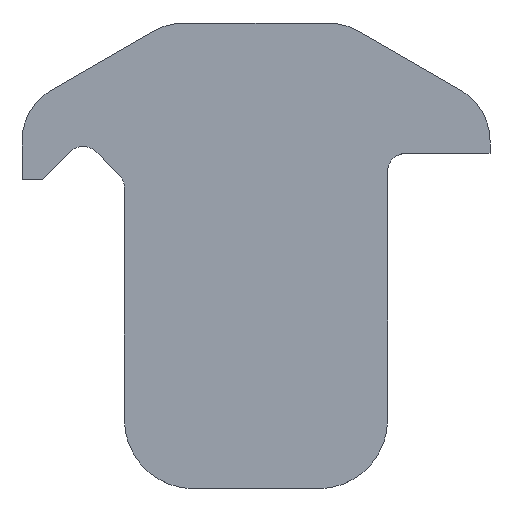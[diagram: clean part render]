
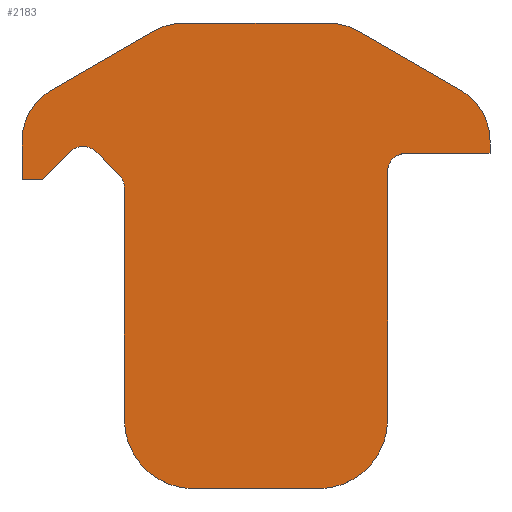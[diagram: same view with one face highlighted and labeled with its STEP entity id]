
A CAD part, top view. The second image highlights one B-rep face of the part: STEP entity #2183.
In plain terms, the highlighted planar face has unit normal (0, 0, 1).
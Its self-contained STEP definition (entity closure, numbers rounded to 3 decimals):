
#6=DIRECTION('',(-1.,0.,0.));
#7=VECTOR('',#6,1.761);
#8=CARTESIAN_POINT('',(-18.559,15.697,1.));
#9=LINE('',#8,#7);
#26=CARTESIAN_POINT('',(5.43,-5.131,1.));
#27=DIRECTION('',(0.,0.,1.));
#28=DIRECTION('',(0.,-1.,0.));
#29=AXIS2_PLACEMENT_3D('',#26,#27,#28);
#31=DIRECTION('',(-1.,0.,0.));
#32=VECTOR('',#31,10.86);
#33=CARTESIAN_POINT('',(5.43,-11.131,1.));
#34=LINE('',#33,#32);
#35=CARTESIAN_POINT('',(-5.43,-5.131,1.));
#36=DIRECTION('',(0.,0.,1.));
#37=DIRECTION('',(-1.,0.,0.));
#38=AXIS2_PLACEMENT_3D('',#35,#36,#37);
#40=DIRECTION('',(0.,1.,0.));
#41=VECTOR('',#40,5.056);
#42=CARTESIAN_POINT('',(-11.43,-5.131,1.));
#43=LINE('',#42,#41);
#44=CARTESIAN_POINT('',(-6.35,-0.051,1.));
#45=DIRECTION('',(0.,0.,1.));
#46=DIRECTION('',(-1.,0.,0.));
#47=AXIS2_PLACEMENT_3D('',#44,#45,#46);
#49=CARTESIAN_POINT('',(-13.005,15.037,1.));
#50=DIRECTION('',(0.,0.,-1.));
#51=DIRECTION('',(0.807,0.591,0.));
#52=AXIS2_PLACEMENT_3D('',#49,#50,#51);
#54=DIRECTION('',(0.707,-0.707,0.));
#55=VECTOR('',#54,3.06);
#56=CARTESIAN_POINT('',(-13.898,18.132,1.));
#57=LINE('',#56,#55);
#58=CARTESIAN_POINT('',(-15.011,17.018,1.));
#59=DIRECTION('',(0.,0.,-1.));
#60=DIRECTION('',(-0.707,0.707,0.));
#61=AXIS2_PLACEMENT_3D('',#58,#59,#60);
#63=DIRECTION('',(0.707,0.707,0.));
#64=VECTOR('',#63,3.443);
#65=CARTESIAN_POINT('',(-18.559,15.697,1.));
#66=LINE('',#65,#64);
#67=CARTESIAN_POINT('',(-15.24,19.074,1.));
#68=DIRECTION('',(0.,0.,1.));
#69=DIRECTION('',(-0.5,0.866,0.));
#70=AXIS2_PLACEMENT_3D('',#67,#68,#69);
#72=DIRECTION('',(-0.866,-0.5,0.));
#73=VECTOR('',#72,10.265);
#74=CARTESIAN_POINT('',(-8.89,28.606,1.));
#75=LINE('',#74,#73);
#76=CARTESIAN_POINT('',(-6.35,24.206,1.));
#77=DIRECTION('',(0.,0.,1.));
#78=DIRECTION('',(0.,1.,0.));
#79=AXIS2_PLACEMENT_3D('',#76,#77,#78);
#81=CARTESIAN_POINT('',(6.35,24.206,1.));
#82=DIRECTION('',(0.,0.,1.));
#83=DIRECTION('',(0.5,0.866,0.));
#84=AXIS2_PLACEMENT_3D('',#81,#82,#83);
#86=DIRECTION('',(-0.866,0.5,0.));
#87=VECTOR('',#86,10.265);
#88=CARTESIAN_POINT('',(17.78,23.473,1.));
#89=LINE('',#88,#87);
#90=CARTESIAN_POINT('',(15.24,19.074,1.));
#91=DIRECTION('',(0.,0.,1.));
#92=DIRECTION('',(1.,0.,0.));
#93=AXIS2_PLACEMENT_3D('',#90,#91,#92);
#95=CARTESIAN_POINT('',(13.005,16.408,1.));
#96=DIRECTION('',(0.,0.,-1.));
#97=DIRECTION('',(-1.,0.,0.));
#98=AXIS2_PLACEMENT_3D('',#95,#96,#97);
#100=CARTESIAN_POINT('',(6.35,-0.051,1.));
#101=DIRECTION('',(0.,0.,1.));
#102=DIRECTION('',(1.,-0.005,0.));
#103=AXIS2_PLACEMENT_3D('',#100,#101,#102);
#105=DIRECTION('',(0.,-1.,0.));
#106=VECTOR('',#105,5.056);
#107=CARTESIAN_POINT('',(11.43,-0.075,1.));
#108=LINE('',#107,#106);
#900=DIRECTION('',(0.,-1.,0.));
#901=VECTOR('',#900,16.459);
#902=CARTESIAN_POINT('',(11.43,16.408,1.));
#903=LINE('',#902,#901);
#933=DIRECTION('',(-1.,0.,0.));
#934=VECTOR('',#933,7.315);
#935=CARTESIAN_POINT('',(20.32,17.983,1.));
#936=LINE('',#935,#934);
#945=DIRECTION('',(0.,-1.,0.));
#946=VECTOR('',#945,1.09);
#947=CARTESIAN_POINT('',(20.32,19.074,1.));
#948=LINE('',#947,#946);
#999=DIRECTION('',(1.,0.,0.));
#1000=VECTOR('',#999,12.7);
#1001=CARTESIAN_POINT('',(-6.35,29.286,1.));
#1002=LINE('',#1001,#1000);
#1053=DIRECTION('',(0.,1.,0.));
#1054=VECTOR('',#1053,3.376);
#1055=CARTESIAN_POINT('',(-20.32,15.697,1.));
#1056=LINE('',#1055,#1054);
#1220=DIRECTION('',(0.,1.,0.));
#1221=VECTOR('',#1220,15.088);
#1222=CARTESIAN_POINT('',(-11.43,-0.051,1.));
#1223=LINE('',#1222,#1221);
#2018=CARTESIAN_POINT('',(-18.559,15.697,1.));
#2019=CARTESIAN_POINT('',(-20.32,15.697,1.));
#2020=VERTEX_POINT('',#2018);
#2021=VERTEX_POINT('',#2019);
#2022=CARTESIAN_POINT('',(-6.35,29.286,1.));
#2023=CARTESIAN_POINT('',(6.35,29.286,1.));
#2024=VERTEX_POINT('',#2022);
#2025=VERTEX_POINT('',#2023);
#2026=CARTESIAN_POINT('',(-17.78,23.473,1.));
#2027=CARTESIAN_POINT('',(-20.32,19.074,1.));
#2028=VERTEX_POINT('',#2026);
#2029=VERTEX_POINT('',#2027);
#2030=CARTESIAN_POINT('',(11.43,16.408,1.));
#2031=CARTESIAN_POINT('',(13.005,17.983,1.));
#2032=VERTEX_POINT('',#2030);
#2033=VERTEX_POINT('',#2031);
#2034=CARTESIAN_POINT('',(8.89,28.606,1.));
#2035=VERTEX_POINT('',#2034);
#2036=CARTESIAN_POINT('',(-11.43,-0.051,1.));
#2037=CARTESIAN_POINT('',(-11.43,15.037,1.));
#2038=VERTEX_POINT('',#2036);
#2039=VERTEX_POINT('',#2037);
#2040=CARTESIAN_POINT('',(-11.734,15.968,1.));
#2041=VERTEX_POINT('',#2040);
#2042=CARTESIAN_POINT('',(20.32,17.983,1.));
#2043=VERTEX_POINT('',#2042);
#2044=CARTESIAN_POINT('',(-13.898,18.132,1.));
#2045=VERTEX_POINT('',#2044);
#2046=CARTESIAN_POINT('',(-16.125,18.132,1.));
#2047=VERTEX_POINT('',#2046);
#2048=CARTESIAN_POINT('',(-8.89,28.606,1.));
#2049=VERTEX_POINT('',#2048);
#2050=CARTESIAN_POINT('',(20.32,19.074,1.));
#2051=CARTESIAN_POINT('',(17.78,23.473,1.));
#2052=VERTEX_POINT('',#2050);
#2053=VERTEX_POINT('',#2051);
#2054=CARTESIAN_POINT('',(11.43,-0.051,1.));
#2055=VERTEX_POINT('',#2054);
#2056=CARTESIAN_POINT('',(-11.43,-0.075,1.));
#2057=VERTEX_POINT('',#2056);
#2058=CARTESIAN_POINT('',(11.43,-0.075,1.));
#2059=VERTEX_POINT('',#2058);
#2060=CARTESIAN_POINT('',(5.43,-11.131,1.));
#2061=CARTESIAN_POINT('',(11.43,-5.131,1.));
#2062=VERTEX_POINT('',#2060);
#2063=VERTEX_POINT('',#2061);
#2064=CARTESIAN_POINT('',(-11.43,-5.131,1.));
#2065=CARTESIAN_POINT('',(-5.43,-11.131,1.));
#2066=VERTEX_POINT('',#2064);
#2067=VERTEX_POINT('',#2065);
#2128=CARTESIAN_POINT('',(-15.24,19.074,1.));
#2129=DIRECTION('',(0.,0.,1.));
#2130=DIRECTION('',(1.,0.,0.));
#2131=AXIS2_PLACEMENT_3D('',#2128,#2129,#2130);
#2132=PLANE('',#2131);
#2134=ORIENTED_EDGE('',*,*,#2133,.F.);
#2136=ORIENTED_EDGE('',*,*,#2135,.T.);
#2138=ORIENTED_EDGE('',*,*,#2137,.F.);
#2140=ORIENTED_EDGE('',*,*,#2139,.T.);
#2142=ORIENTED_EDGE('',*,*,#2141,.F.);
#2144=ORIENTED_EDGE('',*,*,#2143,.T.);
#2146=ORIENTED_EDGE('',*,*,#2145,.F.);
#2148=ORIENTED_EDGE('',*,*,#2147,.F.);
#2150=ORIENTED_EDGE('',*,*,#2149,.F.);
#2151=ORIENTED_EDGE('',*,*,#2121,.F.);
#2152=ORIENTED_EDGE('',*,*,#2077,.T.);
#2154=ORIENTED_EDGE('',*,*,#2153,.T.);
#2156=ORIENTED_EDGE('',*,*,#2155,.F.);
#2158=ORIENTED_EDGE('',*,*,#2157,.F.);
#2160=ORIENTED_EDGE('',*,*,#2159,.F.);
#2162=ORIENTED_EDGE('',*,*,#2161,.T.);
#2164=ORIENTED_EDGE('',*,*,#2163,.F.);
#2166=ORIENTED_EDGE('',*,*,#2165,.F.);
#2168=ORIENTED_EDGE('',*,*,#2167,.F.);
#2170=ORIENTED_EDGE('',*,*,#2169,.T.);
#2172=ORIENTED_EDGE('',*,*,#2171,.T.);
#2174=ORIENTED_EDGE('',*,*,#2173,.F.);
#2176=ORIENTED_EDGE('',*,*,#2175,.T.);
#2178=ORIENTED_EDGE('',*,*,#2177,.F.);
#2180=ORIENTED_EDGE('',*,*,#2179,.T.);
#2181=EDGE_LOOP('',(#2134,#2136,#2138,#2140,#2142,#2144,#2146,#2148,#2150,#2151,
#2152,#2154,#2156,#2158,#2160,#2162,#2164,#2166,#2168,#2170,#2172,#2174,#2176,
#2178,#2180));
#2182=FACE_OUTER_BOUND('',#2181,.F.);
#2183=ADVANCED_FACE('',(#2182),#2132,.T.);
#30=CIRCLE('',#29,6.);
#39=CIRCLE('',#38,6.);
#48=CIRCLE('',#47,5.08);
#53=CIRCLE('',#52,1.575);
#62=CIRCLE('',#61,1.575);
#71=CIRCLE('',#70,5.08);
#80=CIRCLE('',#79,5.08);
#85=CIRCLE('',#84,5.08);
#94=CIRCLE('',#93,5.08);
#99=CIRCLE('',#98,1.575);
#104=CIRCLE('',#103,5.08);
#2077=EDGE_CURVE('',#2020,#2021,#9,.T.);
#2121=EDGE_CURVE('',#2020,#2047,#66,.T.);
#2133=EDGE_CURVE('',#2062,#2063,#30,.T.);
#2135=EDGE_CURVE('',#2062,#2067,#34,.T.);
#2137=EDGE_CURVE('',#2066,#2067,#39,.T.);
#2139=EDGE_CURVE('',#2066,#2057,#43,.T.);
#2141=EDGE_CURVE('',#2038,#2057,#48,.T.);
#2143=EDGE_CURVE('',#2038,#2039,#1223,.T.);
#2145=EDGE_CURVE('',#2041,#2039,#53,.T.);
#2147=EDGE_CURVE('',#2045,#2041,#57,.T.);
#2149=EDGE_CURVE('',#2047,#2045,#62,.T.);
#2153=EDGE_CURVE('',#2021,#2029,#1056,.T.);
#2155=EDGE_CURVE('',#2028,#2029,#71,.T.);
#2157=EDGE_CURVE('',#2049,#2028,#75,.T.);
#2159=EDGE_CURVE('',#2024,#2049,#80,.T.);
#2161=EDGE_CURVE('',#2024,#2025,#1002,.T.);
#2163=EDGE_CURVE('',#2035,#2025,#85,.T.);
#2165=EDGE_CURVE('',#2053,#2035,#89,.T.);
#2167=EDGE_CURVE('',#2052,#2053,#94,.T.);
#2169=EDGE_CURVE('',#2052,#2043,#948,.T.);
#2171=EDGE_CURVE('',#2043,#2033,#936,.T.);
#2173=EDGE_CURVE('',#2032,#2033,#99,.T.);
#2175=EDGE_CURVE('',#2032,#2055,#903,.T.);
#2177=EDGE_CURVE('',#2059,#2055,#104,.T.);
#2179=EDGE_CURVE('',#2059,#2063,#108,.T.);
